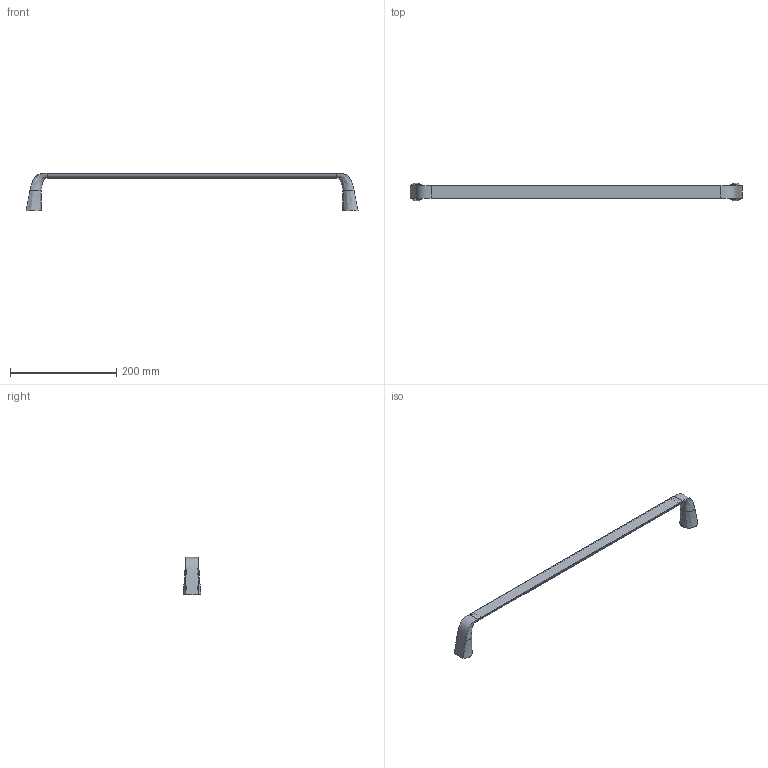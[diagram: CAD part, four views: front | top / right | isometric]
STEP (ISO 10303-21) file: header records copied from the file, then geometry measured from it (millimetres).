
FILE_DESCRIPTION(/* description */ (''),/* implementation_level */ '2;1');
FILE_NAME(/* name */ 'c:\worker\convert-fusion-r05\tmp\job-1\16\output\files\4873819d-26e4-4088-b0be-23486bbec3fc\f754ea73-40dc-4d26-9df4-5426d0208053.stp',/* time_stamp */ '2019-07-12T08:54:26+00:00',/* author */ (''),/* organization */ (''),/* preprocessor_version */ 'ST-DEVELOPER v18',/* originating_system */ 'Autodesk Translation Framework v8.2.0.1029',/* authorisation */ '');
FILE_SCHEMA (('AUTOMOTIVE_DESIGN { 1 0 10303 214 3 1 1 }'));
Length unit declared in the file: millimetre
Products named in the file (1): !SA54216
Bounding box: 625.42 x 33.68 x 70 mm (x, y, z)
Volume: 64906.9 mm3; surface area: 85572.2 mm2
Topology: 7 solids, 7 shells, 154 faces, 388 edges, 252 vertices
Faces by surface type: plane 60, cylinder 40, bspline 40, cone 14
Full cylindrical faces by diameter (mm): 4.2 x2, 5 x12, 11 x2, 18.5 x4
Entity records: 18775 total; most frequent: CARTESIAN_POINT 15367, ORIENTED_EDGE 760, DIRECTION 558, EDGE_CURVE 380, VERTEX_POINT 252, AXIS2_PLACEMENT_3D 195, EDGE_LOOP 176, LINE 168
